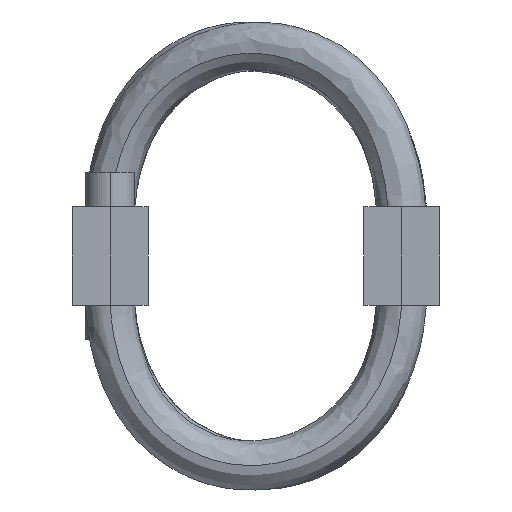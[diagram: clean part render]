
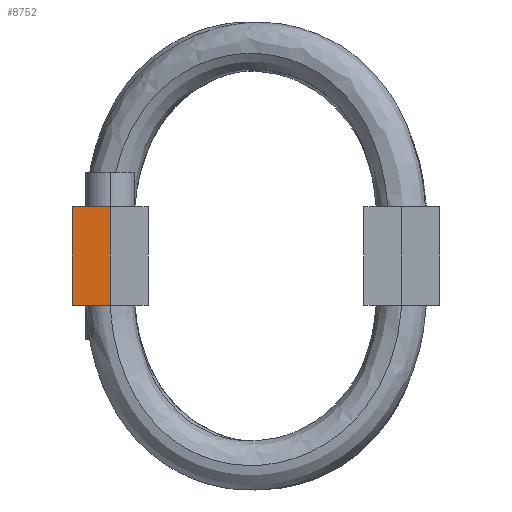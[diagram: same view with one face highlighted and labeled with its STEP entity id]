
A CAD part, left-side view. The second image highlights one B-rep face of the part: STEP entity #8752.
In plain terms, the highlighted planar face has unit normal (-1, 0, 0).
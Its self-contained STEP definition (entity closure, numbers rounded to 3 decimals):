
#1216 = ORIENTED_EDGE ( 'NONE', *, *, #18604, .F. ) ;
#2820 = CARTESIAN_POINT ( 'NONE',  ( -107.95, 37.7, -12.7 ) ) ;
#3344 = LINE ( 'NONE', #7206, #16864 ) ;
#4443 = CARTESIAN_POINT ( 'NONE',  ( -107.95, 42.6, 0. ) ) ;
#7181 = LINE ( 'NONE', #29291, #27962 ) ;
#7206 = CARTESIAN_POINT ( 'NONE',  ( -107.95, 47.5, 12.7 ) ) ;
#7603 = DIRECTION ( 'NONE',  ( 0., 0., 1. ) ) ;
#8215 = DIRECTION ( 'NONE',  ( 0., 0., -1. ) ) ;
#8321 = VERTEX_POINT ( 'NONE', #17952 ) ;
#8719 = VERTEX_POINT ( 'NONE', #34215 ) ;
#8752 = ADVANCED_FACE ( 'NONE', ( #15537 ), #28731, .T. ) ;
#9052 = ORIENTED_EDGE ( 'NONE', *, *, #21770, .F. ) ;
#12596 = DIRECTION ( 'NONE',  ( 0., 0., 1. ) ) ;
#13119 = AXIS2_PLACEMENT_3D ( 'NONE', #4443, #28838, #12596 ) ;
#13298 = CARTESIAN_POINT ( 'NONE',  ( -107.95, 37.7, -12.7 ) ) ;
#15537 = FACE_OUTER_BOUND ( 'NONE', #30205, .T. ) ;
#16864 = VECTOR ( 'NONE', #18089, 1000. ) ;
#17526 = EDGE_CURVE ( 'NONE', #8719, #23575, #7181, .T. ) ;
#17835 = VERTEX_POINT ( 'NONE', #13298 ) ;
#17952 = CARTESIAN_POINT ( 'NONE',  ( -107.95, 37.7, 12.7 ) ) ;
#18089 = DIRECTION ( 'NONE',  ( 0., -1., 0. ) ) ;
#18604 = EDGE_CURVE ( 'NONE', #23575, #8321, #3344, .T. ) ;
#19643 = VECTOR ( 'NONE', #25862, 1000. ) ;
#20935 = ORIENTED_EDGE ( 'NONE', *, *, #30467, .F. ) ;
#21770 = EDGE_CURVE ( 'NONE', #8321, #17835, #25230, .T. ) ;
#22767 = ORIENTED_EDGE ( 'NONE', *, *, #17526, .F. ) ;
#23121 = CARTESIAN_POINT ( 'NONE',  ( -107.95, 47.5, -12.7 ) ) ;
#23575 = VERTEX_POINT ( 'NONE', #34230 ) ;
#24381 = VECTOR ( 'NONE', #8215, 1000. ) ;
#25230 = LINE ( 'NONE', #2820, #24381 ) ;
#25862 = DIRECTION ( 'NONE',  ( 0., 1., 0. ) ) ;
#27962 = VECTOR ( 'NONE', #7603, 1000. ) ;
#28731 = PLANE ( 'NONE',  #13119 ) ;
#28838 = DIRECTION ( 'NONE',  ( -1., 0., 0. ) ) ;
#29291 = CARTESIAN_POINT ( 'NONE',  ( -107.95, 47.5, -12.7 ) ) ;
#30205 = EDGE_LOOP ( 'NONE', ( #1216, #22767, #20935, #9052 ) ) ;
#30467 = EDGE_CURVE ( 'NONE', #17835, #8719, #34107, .T. ) ;
#34107 = LINE ( 'NONE', #23121, #19643 ) ;
#34215 = CARTESIAN_POINT ( 'NONE',  ( -107.95, 47.5, -12.7 ) ) ;
#34230 = CARTESIAN_POINT ( 'NONE',  ( -107.95, 47.5, 12.7 ) ) ;
